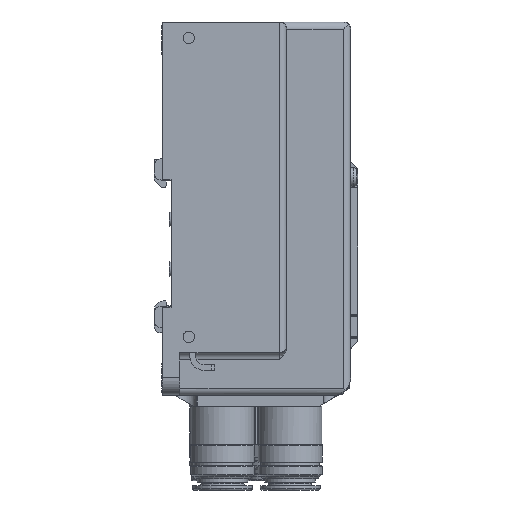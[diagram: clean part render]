
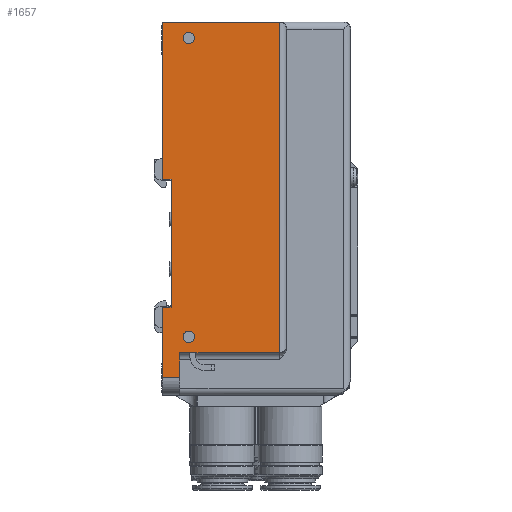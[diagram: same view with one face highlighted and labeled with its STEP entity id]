
A CAD part, left-side view. The second image highlights one B-rep face of the part: STEP entity #1657.
In plain terms, the highlighted planar face has unit normal (-1, 0, 0).
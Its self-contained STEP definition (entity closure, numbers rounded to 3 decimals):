
#1657=ADVANCED_FACE('',(#11602,#11603,#11604),#11601,.F.);
#11601=PLANE('',#20893);
#11602=FACE_OUTER_BOUND('',#20894,.T.);
#11603=FACE_BOUND('',#20895,.T.);
#11604=FACE_BOUND('',#20896,.T.);
#20890=CARTESIAN_POINT('',(0.,-41.3,72.2));
#20891=DIRECTION('',(1.,0.,0.));
#20892=DIRECTION('',(0.,0.,-1.));
#20893=AXIS2_PLACEMENT_3D('',#20890,#20891,#20892);
#20894=EDGE_LOOP('',(#27420,#27421,#27422,#27423,#27424,#27425,#27426,#27427,#27428,#27429));
#20895=EDGE_LOOP('',(#27430,#27431));
#20896=EDGE_LOOP('',(#27432,#27433));
#27420=ORIENTED_EDGE('',*,*,#31579,.F.);
#27421=ORIENTED_EDGE('',*,*,#31544,.T.);
#27422=ORIENTED_EDGE('',*,*,#31578,.F.);
#27423=ORIENTED_EDGE('',*,*,#31580,.F.);
#27424=ORIENTED_EDGE('',*,*,#31581,.T.);
#27425=ORIENTED_EDGE('',*,*,#31582,.F.);
#27426=ORIENTED_EDGE('',*,*,#31583,.T.);
#27427=ORIENTED_EDGE('',*,*,#31584,.T.);
#27428=ORIENTED_EDGE('',*,*,#31585,.F.);
#27429=ORIENTED_EDGE('',*,*,#31586,.F.);
#27430=ORIENTED_EDGE('',*,*,#31587,.F.);
#27431=ORIENTED_EDGE('',*,*,#31588,.F.);
#27432=ORIENTED_EDGE('',*,*,#31589,.F.);
#27433=ORIENTED_EDGE('',*,*,#31590,.F.);
#31544=EDGE_CURVE('',#48945,#48938,#48946,.T.);
#31578=EDGE_CURVE('',#49172,#48938,#49179,.T.);
#31579=EDGE_CURVE('',#48945,#49185,#49186,.T.);
#31580=EDGE_CURVE('',#49192,#49172,#49193,.T.);
#31581=EDGE_CURVE('',#49192,#48372,#49199,.T.);
#31582=EDGE_CURVE('',#49205,#48372,#49206,.T.);
#31583=EDGE_CURVE('',#49205,#49212,#49213,.T.);
#31584=EDGE_CURVE('',#49212,#49219,#49220,.T.);
#31585=EDGE_CURVE('',#49226,#49219,#49227,.T.);
#31586=EDGE_CURVE('',#49185,#49226,#49233,.T.);
#31587=EDGE_CURVE('',#49239,#49240,#49241,.T.);
#31588=EDGE_CURVE('',#49240,#49239,#49247,.T.);
#31589=EDGE_CURVE('',#49253,#49254,#49255,.T.);
#31590=EDGE_CURVE('',#49254,#49253,#49261,.T.);
#48372=VERTEX_POINT('',#63550);
#48938=VERTEX_POINT('',#63879);
#48945=VERTEX_POINT('',#63884);
#48946=LINE('',#63885,#63886);
#49172=VERTEX_POINT('',#64017);
#49179=LINE('',#64022,#64023);
#49185=VERTEX_POINT('',#64025);
#49186=LINE('',#64026,#64027);
#49192=VERTEX_POINT('',#64029);
#49193=LINE('',#64030,#64031);
#49199=LINE('',#64033,#64034);
#49205=VERTEX_POINT('',#64036);
#49206=LINE('',#64037,#64038);
#49212=VERTEX_POINT('',#64040);
#49213=LINE('',#64041,#64042);
#49219=VERTEX_POINT('',#64044);
#49220=LINE('',#64045,#64046);
#49226=VERTEX_POINT('',#64048);
#49227=LINE('',#64049,#64050);
#49233=LINE('',#64052,#64053);
#49239=VERTEX_POINT('',#64055);
#49240=VERTEX_POINT('',#64056);
#49241=CIRCLE('',#64060,1.6);
#49247=CIRCLE('',#64064,1.6);
#49253=VERTEX_POINT('',#64065);
#49254=VERTEX_POINT('',#64066);
#49255=CIRCLE('',#64070,1.6);
#49261=CIRCLE('',#64074,1.6);
#63550=CARTESIAN_POINT('',(0.,-38.,-30.8));
#63879=CARTESIAN_POINT('',(0.,-5.,-37.8));
#63884=CARTESIAN_POINT('',(0.,-5.,-18.));
#63885=CARTESIAN_POINT('',(0.,-5.,-18.));
#63886=VECTOR('',#63887,19.8);
#63887=DIRECTION('',(0.,0.,-1.));
#64017=CARTESIAN_POINT('',(0.,-10.,-37.8));
#64022=CARTESIAN_POINT('',(0.,-10.,-37.8));
#64023=VECTOR('',#64024,5.);
#64024=DIRECTION('',(0.,1.,0.));
#64025=CARTESIAN_POINT('',(0.,-7.5,-18.));
#64026=CARTESIAN_POINT('',(0.,-5.,-18.));
#64027=VECTOR('',#64028,2.5);
#64028=DIRECTION('',(0.,-1.,0.));
#64029=CARTESIAN_POINT('',(0.,-10.,-30.8));
#64030=CARTESIAN_POINT('',(0.,-10.,-30.8));
#64031=VECTOR('',#64032,7.);
#64032=DIRECTION('',(0.,0.,-1.));
#64033=CARTESIAN_POINT('',(0.,-10.,-30.8));
#64034=VECTOR('',#64035,28.);
#64035=DIRECTION('',(0.,-1.,0.));
#64036=CARTESIAN_POINT('',(0.,-38.,62.2));
#64037=CARTESIAN_POINT('',(0.,-38.,62.2));
#64038=VECTOR('',#64039,93.);
#64039=DIRECTION('',(0.,0.,-1.));
#64040=CARTESIAN_POINT('',(0.,-5.,62.2));
#64041=CARTESIAN_POINT('',(0.,-38.,62.2));
#64042=VECTOR('',#64043,33.);
#64043=DIRECTION('',(0.,1.,0.));
#64044=CARTESIAN_POINT('',(0.,-5.,18.));
#64045=CARTESIAN_POINT('',(0.,-5.,62.2));
#64046=VECTOR('',#64047,44.2);
#64047=DIRECTION('',(0.,0.,-1.));
#64048=CARTESIAN_POINT('',(0.,-7.5,18.));
#64049=CARTESIAN_POINT('',(0.,-7.5,18.));
#64050=VECTOR('',#64051,2.5);
#64051=DIRECTION('',(0.,1.,0.));
#64052=CARTESIAN_POINT('',(0.,-7.5,-18.));
#64053=VECTOR('',#64054,36.);
#64054=DIRECTION('',(0.,0.,1.));
#64055=CARTESIAN_POINT('',(0.,-12.5,59.3));
#64056=CARTESIAN_POINT('',(0.,-12.5,56.1));
#64057=CARTESIAN_POINT('',(0.,-12.5,57.7));
#64058=DIRECTION('',(-1.,0.,0.));
#64059=DIRECTION('',(0.,0.,-1.));
#64060=AXIS2_PLACEMENT_3D('',#64057,#64058,#64059);
#64061=CARTESIAN_POINT('',(0.,-12.5,57.7));
#64062=DIRECTION('',(-1.,0.,0.));
#64063=DIRECTION('',(0.,0.,-1.));
#64064=AXIS2_PLACEMENT_3D('',#64061,#64062,#64063);
#64065=CARTESIAN_POINT('',(0.,-12.5,-24.7));
#64066=CARTESIAN_POINT('',(0.,-12.5,-27.9));
#64067=CARTESIAN_POINT('',(0.,-12.5,-26.3));
#64068=DIRECTION('',(-1.,0.,0.));
#64069=DIRECTION('',(0.,0.,-1.));
#64070=AXIS2_PLACEMENT_3D('',#64067,#64068,#64069);
#64071=CARTESIAN_POINT('',(0.,-12.5,-26.3));
#64072=DIRECTION('',(-1.,0.,0.));
#64073=DIRECTION('',(0.,0.,-1.));
#64074=AXIS2_PLACEMENT_3D('',#64071,#64072,#64073);
